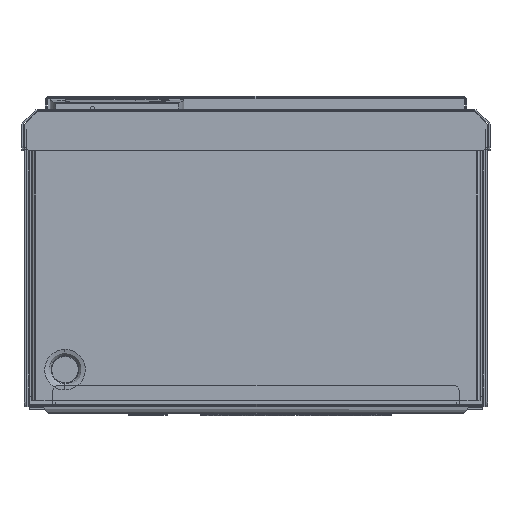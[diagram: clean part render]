
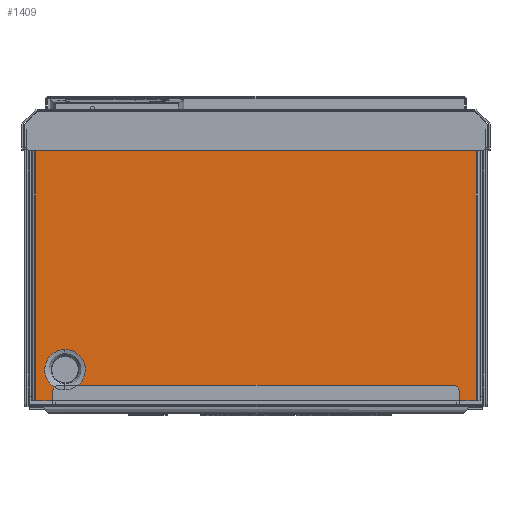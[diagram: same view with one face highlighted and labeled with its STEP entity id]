
A CAD part, front view. The second image highlights one B-rep face of the part: STEP entity #1409.
In plain terms, the highlighted planar face has unit normal (0, -1, 0).
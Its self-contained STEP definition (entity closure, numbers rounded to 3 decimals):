
#335=FACE_BOUND('',#3956,.T.);
#1409=ADVANCED_FACE('',(#2553,#335),#19258,.T.);
#2553=FACE_OUTER_BOUND('',#3955,.T.);
#3955=EDGE_LOOP('',(#9680,#9681,#9682,#9683,#9684,#9685));
#3956=EDGE_LOOP('',(#9686,#9687));
#9680=ORIENTED_EDGE('',*,*,#12985,.F.);
#9681=ORIENTED_EDGE('',*,*,#12986,.F.);
#9682=ORIENTED_EDGE('',*,*,#12987,.F.);
#9683=ORIENTED_EDGE('',*,*,#12988,.F.);
#9684=ORIENTED_EDGE('',*,*,#12989,.F.);
#9685=ORIENTED_EDGE('',*,*,#12990,.F.);
#9686=ORIENTED_EDGE('',*,*,#12995,.F.);
#9687=ORIENTED_EDGE('',*,*,#12975,.F.);
#12975=EDGE_CURVE('',#18091,#18092,#13475,.T.);
#12985=EDGE_CURVE('',#18099,#18100,#16180,.T.);
#12986=EDGE_CURVE('',#18101,#18099,#16181,.T.);
#12987=EDGE_CURVE('',#18102,#18101,#16182,.T.);
#12988=EDGE_CURVE('',#18103,#18102,#16183,.T.);
#12989=EDGE_CURVE('',#18104,#18103,#16184,.T.);
#12990=EDGE_CURVE('',#18100,#18104,#16185,.T.);
#12995=EDGE_CURVE('',#18092,#18091,#13479,.T.);
#13475=(
BOUNDED_CURVE()
B_SPLINE_CURVE(2,(#34996,#34997,#34998,#34999,#35000),.UNSPECIFIED.,.F.,
 .F.)
B_SPLINE_CURVE_WITH_KNOTS((3,2,3),(0.,19.231,38.461),
 .UNSPECIFIED.)
CURVE()
GEOMETRIC_REPRESENTATION_ITEM()
RATIONAL_B_SPLINE_CURVE((1.,0.707,1.,0.707,1.))
REPRESENTATION_ITEM('')
);
#13479=(
BOUNDED_CURVE()
B_SPLINE_CURVE(2,(#35044,#35045,#35046,#35047,#35048),.UNSPECIFIED.,.F.,
 .F.)
B_SPLINE_CURVE_WITH_KNOTS((3,2,3),(0.,19.231,38.461),
 .UNSPECIFIED.)
CURVE()
GEOMETRIC_REPRESENTATION_ITEM()
RATIONAL_B_SPLINE_CURVE((1.,0.707,1.,0.707,1.))
REPRESENTATION_ITEM('')
);
#16180=B_SPLINE_CURVE_WITH_KNOTS('',1,(#35024,#35025),.UNSPECIFIED.,.F.,
 .F.,(2,2),(-170.5,0.),.UNSPECIFIED.);
#16181=B_SPLINE_CURVE_WITH_KNOTS('',1,(#35026,#35027),.UNSPECIFIED.,.F.,
 .F.,(2,2),(-266.5,0.),.UNSPECIFIED.);
#16182=B_SPLINE_CURVE_WITH_KNOTS('',1,(#35028,#35029),.UNSPECIFIED.,.F.,
 .F.,(2,2),(-170.5,0.),.UNSPECIFIED.);
#16183=B_SPLINE_CURVE_WITH_KNOTS('',1,(#35030,#35031),.UNSPECIFIED.,.F.,
 .F.,(2,2),(-12.,0.),.UNSPECIFIED.);
#16184=B_SPLINE_CURVE_WITH_KNOTS('',1,(#35032,#35033),.UNSPECIFIED.,.F.,
 .F.,(2,2),(-242.5,0.),.UNSPECIFIED.);
#16185=B_SPLINE_CURVE_WITH_KNOTS('',1,(#35034,#35035),.UNSPECIFIED.,.F.,
 .F.,(2,2),(-12.,0.),.UNSPECIFIED.);
#18091=VERTEX_POINT('',#34891);
#18092=VERTEX_POINT('',#34892);
#18099=VERTEX_POINT('',#34899);
#18100=VERTEX_POINT('',#34900);
#18101=VERTEX_POINT('',#34901);
#18102=VERTEX_POINT('',#34902);
#18103=VERTEX_POINT('',#34903);
#18104=VERTEX_POINT('',#34904);
#19258=PLANE('',#20311);
#20311=AXIS2_PLACEMENT_3D('',#34508,#21376,$);
#21376=DIRECTION('',(0.,-1.,0.));
#34508=CARTESIAN_POINT('',(-360.15,-251.792,-598.983));
#34891=CARTESIAN_POINT('',(-315.75,-251.792,-550.94));
#34892=CARTESIAN_POINT('',(-315.75,-251.792,-575.426));
#34899=CARTESIAN_POINT('',(-67.,-251.792,-411.433));
#34900=CARTESIAN_POINT('',(-67.,-251.792,-581.933));
#34901=CARTESIAN_POINT('',(-333.5,-251.792,-411.433));
#34902=CARTESIAN_POINT('',(-333.5,-251.792,-581.933));
#34903=CARTESIAN_POINT('',(-321.5,-251.792,-581.933));
#34904=CARTESIAN_POINT('',(-79.,-251.792,-581.933));
#34996=CARTESIAN_POINT('',(-315.75,-251.792,-550.94));
#34997=CARTESIAN_POINT('',(-327.992,-251.792,-550.94));
#34998=CARTESIAN_POINT('',(-327.992,-251.792,-563.183));
#34999=CARTESIAN_POINT('',(-327.992,-251.792,-575.426));
#35000=CARTESIAN_POINT('',(-315.75,-251.792,-575.426));
#35024=CARTESIAN_POINT('',(-67.,-251.792,-411.433));
#35025=CARTESIAN_POINT('',(-67.,-251.792,-581.933));
#35026=CARTESIAN_POINT('',(-333.5,-251.792,-411.433));
#35027=CARTESIAN_POINT('',(-67.,-251.792,-411.433));
#35028=CARTESIAN_POINT('',(-333.5,-251.792,-581.933));
#35029=CARTESIAN_POINT('',(-333.5,-251.792,-411.433));
#35030=CARTESIAN_POINT('',(-321.5,-251.792,-581.933));
#35031=CARTESIAN_POINT('',(-333.5,-251.792,-581.933));
#35032=CARTESIAN_POINT('',(-79.,-251.792,-581.933));
#35033=CARTESIAN_POINT('',(-321.5,-251.792,-581.933));
#35034=CARTESIAN_POINT('',(-67.,-251.792,-581.933));
#35035=CARTESIAN_POINT('',(-79.,-251.792,-581.933));
#35044=CARTESIAN_POINT('',(-315.75,-251.792,-575.426));
#35045=CARTESIAN_POINT('',(-303.507,-251.792,-575.426));
#35046=CARTESIAN_POINT('',(-303.507,-251.792,-563.183));
#35047=CARTESIAN_POINT('',(-303.507,-251.792,-550.94));
#35048=CARTESIAN_POINT('',(-315.75,-251.792,-550.94));
